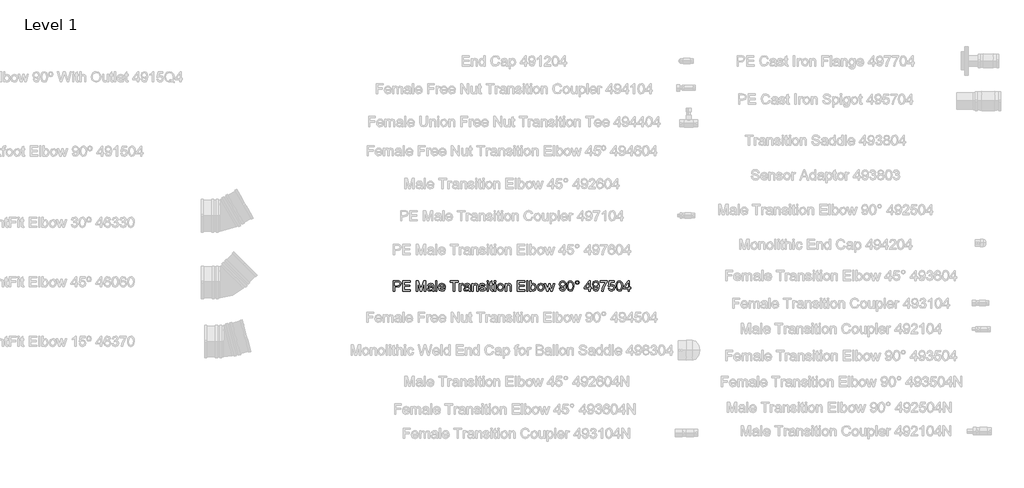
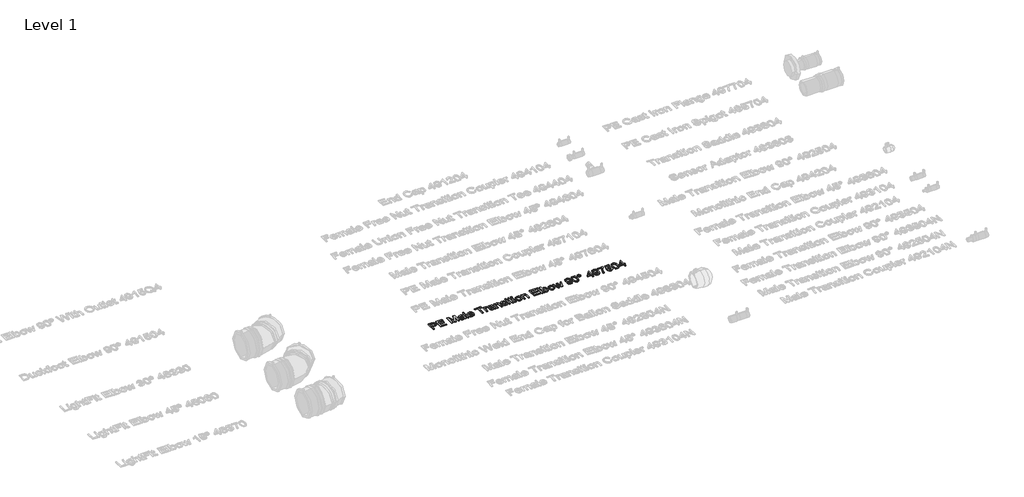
# One storey, part 22 of 41: 1 proxy.
"""IFC4 building model written with IfcOpenShell, lengths in millimetres."""

import ifcopenshell
import ifcopenshell.guid

model = None  # the IFC model being written
_history = None  # IfcOwnerHistory: only IFC2X3 demands one
_inside = {}  # id of a spatial element -> (the spatial element, [elements in it])
_under = {}  # id of a project, library or spatial element -> (it, [spatial elements below it])
_declared = {}  # id of a project -> (the project, [libraries it declares])
_typed = {}  # id of a type object -> (the type object, [elements of that type])
_made_of = {}  # id of a material, layer set ... -> (it, [elements and type objects made of it])


def new_model(schema):
    """Start an empty IFC model of exactly this schema.

    Asked for "IFC4X3", IfcOpenShell would pick the latest addendum, in which some entities
    have other attributes; the version numbers below select the first issue.
    IFC2X3 requires an IfcOwnerHistory on every rooted entity: one is made here for all.
    """
    global model, _history
    if schema == "IFC4X3":
        model = ifcopenshell.file(schema_version=(4, 3, 0, 0))
    else:
        model = ifcopenshell.file(schema=schema)
    _inside.clear()
    _under.clear()
    _declared.clear()
    _typed.clear()
    _made_of.clear()
    _history = None
    if model.schema == "IFC2X3":
        org = make("IfcOrganization", Name="unknown")
        user = make(
            "IfcPersonAndOrganization",
            ThePerson=make("IfcPerson", FamilyName="unknown"),
            TheOrganization=org,
        )
        app = make(
            "IfcApplication",
            ApplicationDeveloper=org,
            Version="unknown",
            ApplicationFullName="unknown",
            ApplicationIdentifier="unknown",
        )
        _history = make(
            "IfcOwnerHistory",
            OwningUser=user,
            OwningApplication=app,
            ChangeAction="ADDED",
            CreationDate=0,
        )
    return model


def make(cls, **values):
    """One entity of the class cls with the attributes given. An attribute that is None is left unset."""
    return model.create_entity(
        cls, **{name: value for name, value in values.items() if value is not None}
    )


def rooted(cls, **values):
    """An entity with a GlobalId (a new one), such as an element, a storey or a relation."""
    return make(cls, GlobalId=ifcopenshell.guid.new(), OwnerHistory=_history, **values)


def si_unit(unit_type, name, prefix=None):
    """IfcSIUnit, for example si_unit("LENGTHUNIT", "METRE", prefix="MILLI")."""
    return make("IfcSIUnit", UnitType=unit_type, Prefix=prefix, Name=name)


def assignment(units):
    """IfcUnitAssignment: the units of a project."""
    return None if units is None else make("IfcUnitAssignment", Units=units)


def point(xyz):
    """IfcCartesianPoint."""
    return None if xyz is None else make("IfcCartesianPoint", Coordinates=xyz)


def direction(xyz):
    """IfcDirection."""
    return None if xyz is None else make("IfcDirection", DirectionRatios=xyz)


def frame(location, z_axis=None, x_axis=None):
    """IfcAxis2Placement3D, a coordinate frame: its origin and axes. An axis left out is left unset."""
    return make(
        "IfcAxis2Placement3D",
        Location=point(location),
        Axis=direction(z_axis),
        RefDirection=direction(x_axis),
    )


def origin():
    """The frame at (0, 0, 0) with its axes left unset."""
    return frame((0.0, 0.0, 0.0))


def origin_with_axes():
    """The frame at (0, 0, 0) with the z axis (0, 0, 1) and the x axis (1, 0, 0) written out."""
    return frame((0.0, 0.0, 0.0), z_axis=(0.0, 0.0, 1.0), x_axis=(1.0, 0.0, 0.0))


def place(relative_to, where):
    """IfcLocalPlacement: puts the frame where relative to a parent placement (None: the world)."""
    return make(
        "IfcLocalPlacement", PlacementRelTo=relative_to, RelativePlacement=where
    )


def context(
    kind, dimensions, precision=None, world=None, true_north=None, identifier=None
):
    """IfcGeometricRepresentationContext, for example the 3D "Model" context."""
    return make(
        "IfcGeometricRepresentationContext",
        ContextIdentifier=identifier,
        ContextType=kind,
        CoordinateSpaceDimension=dimensions,
        Precision=precision,
        WorldCoordinateSystem=world,
        TrueNorth=true_north,
    )


def project(units=None, contexts=None):
    """IfcProject with its units and contexts."""
    return rooted(
        "IfcProject",
        Name="project",
        RepresentationContexts=contexts,
        UnitsInContext=assignment(units),
    )


def spatial(cls, under=None, at=None, **own):
    """A site, building, storey or space (cls), placed at a placement, below another one or the project."""
    s = rooted(cls, ObjectPlacement=at, **own)
    if under is not None:
        _under.setdefault(under.id(), (under, []))[1].append(s)
    return s


def polyline(points):
    """IfcPolyline through the points."""
    return make("IfcPolyline", Points=[point(p) for p in points])


def outline(outer, holes=None, kind="AREA"):
    """IfcArbitraryClosedProfileDef: a profile drawn as a closed curve; with holes, ...WithVoids."""
    if holes is None:
        return make("IfcArbitraryClosedProfileDef", ProfileType=kind, OuterCurve=outer)
    return make(
        "IfcArbitraryProfileDefWithVoids",
        ProfileType=kind,
        OuterCurve=outer,
        InnerCurves=holes,
    )


def extrude(swept, where, along, depth):
    """IfcExtrudedAreaSolid: the profile swept, set in the frame where, extruded along a direction by depth."""
    return make(
        "IfcExtrudedAreaSolid",
        SweptArea=swept,
        Position=where,
        ExtrudedDirection=direction(along),
        Depth=depth,
    )


def shape(context_of_items, identifier, shape_type, items):
    """IfcShapeRepresentation: the items that make up one representation, for example the "Body"."""
    return make(
        "IfcShapeRepresentation",
        ContextOfItems=context_of_items,
        RepresentationIdentifier=identifier,
        RepresentationType=shape_type,
        Items=items,
    )


def made_of(thing, what):
    """Note that an element or type object is made of a material, layer set ...; save() writes the relation."""
    if what is not None:
        _made_of.setdefault(what.id(), (what, []))[1].append(thing)
    return thing


def element(
    cls,
    number,
    at=None,
    inside=None,
    cuts=None,
    type_object=None,
    material=None,
    context=None,
    identifier="Body",
    shape_type=None,
    held_by="IfcProductDefinitionShape",
    body=None,
    shapes=None,
    **own,
):
    """One element of the class cls, such as IfcWall. Its Tag is "e" and its number.

    at: its placement. inside: the storey or other place that contains it. cuts: it is an
    opening in that element (IfcRelVoidsElement). A single representation is given by context,
    identifier, shape_type and body (its items); several are given by shapes. held_by: the class
    of the entity that holds the representations. save() writes the other relations.
    """
    e = rooted(cls, Tag="e%d" % number, ObjectPlacement=at, **own)
    if body is not None:
        shapes = [shape(context, identifier, shape_type, body)]
    if shapes is not None:
        e.Representation = make(held_by, Representations=shapes)
    if inside is not None:
        _inside.setdefault(inside.id(), (inside, []))[1].append(e)
    if cuts is not None:
        rooted(
            "IfcRelVoidsElement", RelatingBuildingElement=cuts, RelatedOpeningElement=e
        )
    if type_object is not None:
        _typed.setdefault(type_object.id(), (type_object, []))[1].append(e)
    return made_of(e, material)


def aggregate(whole, parts):
    """IfcRelAggregates: a whole, such as a stair, and the parts it consists of."""
    return rooted("IfcRelAggregates", RelatingObject=whole, RelatedObjects=parts)


def save(model, path):
    """Write the relations noted so far, then the file.

    IfcRelAggregates (storeys below a building ...), IfcRelContainedInSpatialStructure (elements
    in a storey), IfcRelDefinesByType, IfcRelAssociatesMaterial and IfcRelDeclares: one each for
    every whole, place, type object, material and project.
    """
    for whole, parts in _under.values():
        aggregate(whole, parts)
    for where, things in _inside.values():
        rooted(
            "IfcRelContainedInSpatialStructure",
            RelatedElements=things,
            RelatingStructure=where,
        )
    for kind, things in _typed.values():
        rooted("IfcRelDefinesByType", RelatedObjects=things, RelatingType=kind)
    for what, things in _made_of.values():
        rooted("IfcRelAssociatesMaterial", RelatedObjects=things, RelatingMaterial=what)
    for by, libraries in _declared.values():
        rooted("IfcRelDeclares", RelatingContext=by, RelatedDefinitions=libraries)
    model.write(path)


model = new_model("IFC4")

# Units and contexts
model_context = context("Model", 3, world=origin())
ifc_project = project(units=[si_unit("LENGTHUNIT", "METRE", prefix="MILLI")], contexts=[model_context])

# Site, building, storey
site = spatial("IfcSite", under=ifc_project)
building = spatial("IfcBuilding", under=site)
storey = spatial("IfcBuildingStorey", under=building, Name="Level 1", Elevation=0.0)

# Proxy
placement = place(None, origin())
element("IfcBuildingElementProxy", 1, Name="100 mm Arial", ObjectType="100 mm Arial", at=placement, inside=storey, context=model_context, shape_type="SweptSolid", body=[
    extrude(outline(polyline([(15631.4287831, 3784.446795), (15631.4287831, 3843.523718), (15653.3230139, 3843.523718), (15662.149937, 3842.961218), (15669.3254177, 3840.1991988), (15673.9768601, 3834.4876603), (15675.7364754, 3826.4323719), (15670.9840716, 3813.6679488), (15664.3188072, 3809.7520834), (15653.8278216, 3808.446795), (15638.8133985, 3808.446795), (15638.8133985, 3784.446795), (15631.4287831, 3784.446795)]), holes=[polyline([(15638.8133985, 3815.8314103), (15654.2605139, 3815.8314103), (15665.1355139, 3818.5429488), (15668.3518601, 3826.1727565), (15666.4552254, 3832.2881411), (15661.4720524, 3835.634295), (15654.087437, 3836.1391027), (15638.8133985, 3836.1391027), (15638.8133985, 3815.8314103)])]), origin_with_axes(), (0.0, 0.0, 1.0), 5.0),
    extrude(outline(polyline([(15685.8903216, 3784.446795), (15685.8903216, 3843.523718), (15728.3518601, 3843.523718), (15728.3518601, 3836.1391027), (15693.274937, 3836.1391027), (15693.274937, 3818.6006411), (15726.5057062, 3818.6006411), (15726.5057062, 3811.2160257), (15693.274937, 3811.2160257), (15693.274937, 3791.8314103), (15729.274937, 3791.8314103), (15729.274937, 3784.446795), (15685.8903216, 3784.446795)])), origin_with_axes(), (0.0, 0.0, 1.0), 5.0),
    extrude(outline(polyline([(15763.4287831, 3784.446795), (15763.4287831, 3843.523718), (15776.1355139, 3843.523718), (15788.2220524, 3801.884295), (15790.6595524, 3793.1871796), (15793.2989754, 3802.6054488), (15805.1835908, 3843.523718), (15817.8903216, 3843.523718), (15817.8903216, 3784.446795), (15810.5057062, 3784.446795), (15810.5057062, 3836.1391027), (15795.6643601, 3784.446795), (15785.6547447, 3784.446795), (15770.8133985, 3836.1391027), (15770.8133985, 3784.446795), (15763.4287831, 3784.446795)])), origin_with_axes(), (0.0, 0.0, 1.0), 5.0),
    extrude(outline(polyline([(15857.5826293, 3789.9852565), (15850.4215716, 3784.9804488), (15842.5105139, 3783.523718), (15831.7869562, 3787.0285257), (15828.0441677, 3795.9852565), (15829.4576293, 3801.8266027), (15833.1715716, 3806.0669873), (15838.3422447, 3808.4900642), (15844.7316677, 3809.6006411), (15857.5393601, 3812.1391027), (15857.5826293, 3813.7833334), (15855.5489754, 3819.2352565), (15847.3855139, 3821.3698719), (15839.9143601, 3819.9491988), (15836.3518601, 3814.9083334), (15828.9672447, 3815.8314103), (15832.1619562, 3823.0429488), (15838.5946485, 3827.2689103), (15848.337437, 3828.7544873), (15857.2869562, 3827.4419873), (15862.3422447, 3824.1463142), (15864.6066677, 3819.134295), (15864.9672447, 3812.6727565), (15864.9672447, 3803.4852565), (15865.3422447, 3790.6559296), (15866.8133985, 3784.446795), (15859.4287831, 3784.446795), (15857.5826293, 3789.9852565)]), holes=[polyline([(15857.5826293, 3804.7544873), (15845.6691677, 3802.4900642), (15839.3158024, 3801.2929488), (15836.4383985, 3799.3458334), (15835.4287831, 3796.5044873), (15837.6283024, 3792.509295), (15844.0826293, 3790.9083334), (15851.5537831, 3792.6751603), (15856.3710908, 3796.9516027), (15857.5393601, 3802.6631411), (15857.5826293, 3804.7544873)])]), origin_with_axes(), (0.0, 0.0, 1.0), 5.0),
    extrude(outline(polyline([(15875.1210908, 3784.446795), (15875.1210908, 3843.523718), (15882.5057062, 3843.523718), (15882.5057062, 3784.446795), (15875.1210908, 3784.446795)])), origin_with_axes(), (0.0, 0.0, 1.0), 5.0),
    extrude(outline(polyline([(15923.9576293, 3797.3698719), (15931.1980139, 3796.446795), (15924.4263793, 3786.9131411), (15911.8133985, 3783.523718), (15903.1487351, 3784.9858575), (15896.4816677, 3789.3722757), (15892.2304658, 3796.3981171), (15890.8133985, 3805.7785257), (15892.2448889, 3815.4744392), (15896.5393601, 3822.7256411), (15903.1162831, 3827.2472757), (15911.3951293, 3828.7544873), (15919.4161629, 3827.2508815), (15925.8254177, 3822.7400642), (15930.0279418, 3815.5032853), (15931.4287831, 3805.821795), (15931.3855139, 3803.8314103), (15898.1980139, 3803.8314103), (15902.4456101, 3794.2400642), (15911.9576293, 3790.9083334), (15919.1980139, 3792.4516027), (15923.9576293, 3797.3698719)]), holes=[polyline([(15898.1980139, 3811.2160257), (15924.0441677, 3811.2160257), (15921.087437, 3817.9083334), (15911.3662831, 3821.3698719), (15902.2725331, 3818.6078527), (15898.1980139, 3811.2160257)])]), origin_with_axes(), (0.0, 0.0, 1.0), 5.0),
    extrude(outline(polyline([(15977.5826293, 3784.446795), (15977.5826293, 3836.1391027), (15958.1980139, 3836.1391027), (15958.1980139, 3843.523718), (16004.3518601, 3843.523718), (16004.3518601, 3836.1391027), (15984.9672447, 3836.1391027), (15984.9672447, 3784.446795), (15977.5826293, 3784.446795)])), origin_with_axes(), (0.0, 0.0, 1.0), 5.0),
    extrude(outline(polyline([(16011.7364754, 3784.446795), (16011.7364754, 3827.8314103), (16018.1980139, 3827.8314103), (16018.1980139, 3821.4131411), (16022.7845524, 3827.3266027), (16027.399937, 3828.7544873), (16034.8133985, 3826.4756411), (16032.3470524, 3819.8554488), (16027.1547447, 3821.3698719), (16022.9792639, 3819.9131411), (16020.3182062, 3815.8746796), (16019.1210908, 3807.2496796), (16019.1210908, 3784.446795), (16011.7364754, 3784.446795)])), origin_with_axes(), (0.0, 0.0, 1.0), 5.0),
    extrude(outline(polyline([(16067.1210908, 3789.9852565), (16059.9600331, 3784.9804488), (16052.0489754, 3783.523718), (16041.3254177, 3787.0285257), (16037.5826293, 3795.9852565), (16038.9960908, 3801.8266027), (16042.7100331, 3806.0669873), (16047.8807062, 3808.4900642), (16054.2701293, 3809.6006411), (16067.0778216, 3812.1391027), (16067.1210908, 3813.7833334), (16065.087437, 3819.2352565), (16056.9239754, 3821.3698719), (16049.4528216, 3819.9491988), (16045.8903216, 3814.9083334), (16038.5057062, 3815.8314103), (16041.7004177, 3823.0429488), (16048.1331101, 3827.2689103), (16057.8758985, 3828.7544873), (16066.8254177, 3827.4419873), (16071.8807062, 3824.1463142), (16074.1451293, 3819.134295), (16074.5057062, 3812.6727565), (16074.5057062, 3803.4852565), (16074.8807062, 3790.6559296), (16076.3518601, 3784.446795), (16068.9672447, 3784.446795), (16067.1210908, 3789.9852565)]), holes=[polyline([(16067.1210908, 3804.7544873), (16055.2076293, 3802.4900642), (16048.8542639, 3801.2929488), (16045.9768601, 3799.3458334), (16044.9672447, 3796.5044873), (16047.1667639, 3792.509295), (16053.6210908, 3790.9083334), (16061.0922447, 3792.6751603), (16065.9095524, 3796.9516027), (16067.0778216, 3802.6631411), (16067.1210908, 3804.7544873)])]), origin_with_axes(), (0.0, 0.0, 1.0), 5.0),
    extrude(outline(polyline([(16084.6595524, 3784.446795), (16084.6595524, 3827.8314103), (16092.0441677, 3827.8314103), (16092.0441677, 3821.773718), (16097.6908024, 3827.009295), (16105.399937, 3828.7544873), (16112.3734947, 3827.3482373), (16117.1331101, 3823.6559296), (16119.3470524, 3818.2256411), (16119.7364754, 3811.086218), (16119.7364754, 3784.446795), (16112.3518601, 3784.446795), (16112.3518601, 3810.0910257), (16111.5008985, 3816.6246796), (16108.493687, 3820.0790065), (16103.4239754, 3821.3698719), (16095.4119562, 3818.4708334), (16092.0441677, 3807.4660257), (16092.0441677, 3784.446795), (16084.6595524, 3784.446795)])), origin_with_axes(), (0.0, 0.0, 1.0), 5.0),
    extrude(outline(polyline([(16127.1210908, 3797.3698719), (16134.5057062, 3798.2929488), (16137.9239754, 3792.8121796), (16145.7557062, 3790.9083334), (16153.2845524, 3792.6535257), (16155.7364754, 3796.7496796), (16153.2701293, 3800.0669873), (16145.6691677, 3802.1727565), (16134.5489754, 3805.7857373), (16129.6956101, 3810.0044873), (16128.0441677, 3815.961218), (16129.3710908, 3821.4636219), (16132.9912831, 3825.6679488), (16137.6859947, 3827.853045), (16144.0393601, 3828.7544873), (16153.024937, 3827.304968), (16158.7364754, 3823.3818911), (16161.274937, 3816.7544873), (16153.8903216, 3815.8314103), (16151.1138793, 3819.9059296), (16144.6162831, 3821.3698719), (16137.5489754, 3819.9708334), (16135.4287831, 3816.711218), (16136.3085908, 3814.5621796), (16139.0633985, 3812.9323719), (16145.4239754, 3811.3602565), (16156.2629177, 3807.884295), (16161.2965716, 3803.946795), (16163.1210908, 3797.5285257), (16160.9792639, 3790.461218), (16154.7989754, 3785.3338142), (16145.6547447, 3783.523718), (16132.774937, 3787.0141027), (16127.1210908, 3797.3698719)])), origin_with_axes(), (0.0, 0.0, 1.0), 5.0),
    extrude(outline(polyline([(16171.4287831, 3784.446795), (16171.4287831, 3827.8314103), (16178.8133985, 3827.8314103), (16178.8133985, 3784.446795), (16171.4287831, 3784.446795)])), origin_with_axes(), (0.0, 0.0, 1.0), 5.0),
    extrude(outline(polyline([(16171.4287831, 3836.1391027), (16171.4287831, 3843.523718), (16178.8133985, 3843.523718), (16178.8133985, 3836.1391027), (16171.4287831, 3836.1391027)])), origin_with_axes(), (0.0, 0.0, 1.0), 5.0),
    extrude(outline(polyline([(16205.5826293, 3790.6054488), (16206.5057062, 3784.2304488), (16200.9816677, 3783.523718), (16194.7941677, 3784.7496796), (16191.7076293, 3787.9660257), (16190.8133985, 3796.3458334), (16190.8133985, 3820.446795), (16185.274937, 3820.446795), (16185.274937, 3827.8314103), (16190.8133985, 3827.8314103), (16190.8133985, 3838.3746796), (16198.1980139, 3842.7160257), (16198.1980139, 3827.8314103), (16205.5826293, 3827.8314103), (16205.5826293, 3820.446795), (16198.1980139, 3820.446795), (16198.1980139, 3796.5621796), (16198.587437, 3792.7544873), (16199.8494562, 3791.4059296), (16202.3662831, 3790.9083334), (16205.5826293, 3790.6054488)])), origin_with_axes(), (0.0, 0.0, 1.0), 5.0),
    extrude(outline(polyline([(16212.9672447, 3836.1391027), (16212.9672447, 3843.523718), (16220.3518601, 3843.523718), (16220.3518601, 3836.1391027), (16212.9672447, 3836.1391027)])), origin_with_axes(), (0.0, 0.0, 1.0), 5.0),
    extrude(outline(polyline([(16212.9672447, 3784.446795), (16212.9672447, 3827.8314103), (16220.3518601, 3827.8314103), (16220.3518601, 3784.446795), (16212.9672447, 3784.446795)])), origin_with_axes(), (0.0, 0.0, 1.0), 5.0),
    extrude(outline(polyline([(16229.5826293, 3806.1391027), (16231.1799851, 3816.5994392), (16235.9720524, 3823.9516027), (16248.9816677, 3828.7544873), (16256.7394802, 3827.2923478), (16262.9359947, 3822.9059296), (16266.9978937, 3815.9413863), (16268.3518601, 3806.7448719), (16265.9576293, 3793.6054488), (16258.9840716, 3786.1703527), (16248.9816677, 3783.523718), (16241.1301052, 3784.9804488), (16234.9408024, 3789.3506411), (16230.9221726, 3796.461218), (16229.5826293, 3806.1391027)]), holes=[polyline([(16236.9672447, 3806.1535257), (16240.3855139, 3794.7088142), (16248.9816677, 3790.9083334), (16257.5489754, 3794.7304488), (16260.9672447, 3806.384295), (16257.5273408, 3817.5693911), (16248.9816677, 3821.3698719), (16240.3855139, 3817.5838142), (16236.9672447, 3806.1535257)])]), origin_with_axes(), (0.0, 0.0, 1.0), 5.0),
    extrude(outline(polyline([(16276.6595524, 3784.446795), (16276.6595524, 3827.8314103), (16284.0441677, 3827.8314103), (16284.0441677, 3821.773718), (16289.6908024, 3827.009295), (16297.399937, 3828.7544873), (16304.3734947, 3827.3482373), (16309.1331101, 3823.6559296), (16311.3470524, 3818.2256411), (16311.7364754, 3811.086218), (16311.7364754, 3784.446795), (16304.3518601, 3784.446795), (16304.3518601, 3810.0910257), (16303.5008985, 3816.6246796), (16300.493687, 3820.0790065), (16295.4239754, 3821.3698719), (16287.4119562, 3818.4708334), (16284.0441677, 3807.4660257), (16284.0441677, 3784.446795), (16276.6595524, 3784.446795)])), origin_with_axes(), (0.0, 0.0, 1.0), 5.0),
    extrude(outline(polyline([(16345.8903216, 3784.446795), (16345.8903216, 3843.523718), (16388.3518601, 3843.523718), (16388.3518601, 3836.1391027), (16353.274937, 3836.1391027), (16353.274937, 3818.6006411), (16386.5057062, 3818.6006411), (16386.5057062, 3811.2160257), (16353.274937, 3811.2160257), (16353.274937, 3791.8314103), (16389.274937, 3791.8314103), (16389.274937, 3784.446795), (16345.8903216, 3784.446795)])), origin_with_axes(), (0.0, 0.0, 1.0), 5.0),
    extrude(outline(polyline([(16399.4287831, 3784.446795), (16399.4287831, 3843.523718), (16406.8133985, 3843.523718), (16406.8133985, 3784.446795), (16399.4287831, 3784.446795)])), origin_with_axes(), (0.0, 0.0, 1.0), 5.0),
    extrude(outline(polyline([(16425.274937, 3784.446795), (16417.8903216, 3784.446795), (16417.8903216, 3843.523718), (16425.274937, 3843.523718), (16425.274937, 3821.6150642), (16430.4456101, 3826.9696315), (16436.8710908, 3828.7544873), (16444.2701293, 3827.1463142), (16450.0105139, 3822.6246796), (16453.5369562, 3815.5934296), (16454.8133985, 3806.7881411), (16453.4918841, 3796.929968), (16449.5273408, 3789.5958334), (16443.7094322, 3785.0417469), (16436.8278216, 3783.523718), (16430.2617158, 3785.4816507), (16425.274937, 3791.3554488), (16425.274937, 3784.446795)]), holes=[polyline([(16425.274937, 3806.4419873), (16427.2941677, 3796.1150642), (16436.1932062, 3790.9083334), (16444.0970524, 3794.7448719), (16447.4287831, 3806.1823719), (16444.2340716, 3817.6631411), (16436.5105139, 3821.3698719), (16428.6066677, 3817.5333334), (16425.274937, 3806.4419873)])]), origin_with_axes(), (0.0, 0.0, 1.0), 5.0),
    extrude(outline(polyline([(16461.274937, 3806.1391027), (16462.8722927, 3816.5994392), (16467.6643601, 3823.9516027), (16480.6739754, 3828.7544873), (16488.4317879, 3827.2923478), (16494.6283024, 3822.9059296), (16498.6902014, 3815.9413863), (16500.0441677, 3806.7448719), (16497.649937, 3793.6054488), (16490.6763793, 3786.1703527), (16480.6739754, 3783.523718), (16472.8224129, 3784.9804488), (16466.6331101, 3789.3506411), (16462.6144802, 3796.461218), (16461.274937, 3806.1391027)]), holes=[polyline([(16468.6595524, 3806.1535257), (16472.0778216, 3794.7088142), (16480.6739754, 3790.9083334), (16489.2412831, 3794.7304488), (16492.6595524, 3806.384295), (16489.2196485, 3817.5693911), (16480.6739754, 3821.3698719), (16472.0778216, 3817.5838142), (16468.6595524, 3806.1535257)])]), origin_with_axes(), (0.0, 0.0, 1.0), 5.0),
    extrude(outline(polyline([(16515.5489754, 3784.446795), (16502.3518601, 3827.8314103), (16510.024937, 3827.8314103), (16517.5105139, 3802.5189103), (16519.7460908, 3793.4756411), (16521.5778216, 3802.1871796), (16527.5345524, 3827.8314103), (16536.3326293, 3827.8314103), (16542.2605139, 3802.259295), (16543.8903216, 3794.3698719), (16546.2268601, 3802.6919873), (16553.7268601, 3827.8314103), (16561.4287831, 3827.8314103), (16548.1307062, 3784.446795), (16539.2028216, 3784.446795), (16533.5345524, 3809.8891027), (16531.8903216, 3817.821795), (16524.5778216, 3784.446795), (16515.5489754, 3784.446795)])), origin_with_axes(), (0.0, 0.0, 1.0), 5.0),
    extrude(outline(polyline([(16588.6595524, 3799.2160257), (16596.0441677, 3800.1391027), (16599.3614754, 3793.0934296), (16605.649937, 3790.9083334), (16611.6283024, 3792.3145834), (16615.681187, 3796.071795), (16618.0970524, 3802.4900642), (16619.1643601, 3811.0573719), (16613.2148408, 3806.9035257), (16605.1162831, 3804.7544873), (16592.7773408, 3810.0044873), (16587.7364754, 3823.836218), (16593.0225331, 3838.1150642), (16606.2701293, 3843.523718), (16616.7917639, 3840.4371796), (16624.0321485, 3831.6391027), (16626.5057062, 3815.1102565), (16624.0393601, 3797.1751603), (16616.7052254, 3787.0141027), (16605.3037831, 3783.523718), (16593.9528216, 3787.6415065), (16588.6595524, 3799.2160257)]), holes=[polyline([(16619.1210908, 3824.009295), (16615.9335908, 3832.8650642), (16607.4672447, 3836.1391027), (16598.5826293, 3832.6126603), (16595.1210908, 3823.4756411), (16598.3951293, 3815.290545), (16607.2653216, 3812.1391027), (16615.7821485, 3815.290545), (16619.1210908, 3824.009295)])]), origin_with_axes(), (0.0, 0.0, 1.0), 5.0),
    extrude(outline(polyline([(16632.9672447, 3813.509295), (16635.1379177, 3830.5068911), (16641.5850331, 3840.3073719), (16652.3518601, 3843.523718), (16660.9768601, 3841.6198719), (16666.9335908, 3836.1318911), (16670.3951293, 3827.3915065), (16671.7364754, 3813.509295), (16669.587437, 3796.5838142), (16663.1619562, 3786.7616988), (16652.3518601, 3783.523718), (16644.6787831, 3784.929968), (16638.8518601, 3789.148718), (16634.4383985, 3799.1403046), (16632.9672447, 3813.509295)]), holes=[polyline([(16640.3518601, 3813.523718), (16643.8133985, 3795.1847757), (16652.3518601, 3790.9083334), (16660.8903216, 3795.1991988), (16664.3518601, 3813.523718), (16661.0057062, 3831.6535257), (16652.2653216, 3836.1391027), (16643.9287831, 3832.1871796), (16640.3518601, 3813.523718)])]), origin_with_axes(), (0.0, 0.0, 1.0), 5.0),
    extrude(outline(polyline([(16680.0441677, 3833.384295), (16683.2965716, 3841.2160257), (16691.1066677, 3844.446795), (16698.9672447, 3841.2160257), (16702.1980139, 3833.384295), (16698.9456101, 3825.5453527), (16691.1066677, 3822.2929488), (16683.2965716, 3825.523718), (16680.0441677, 3833.384295)]), holes=[polyline([(16684.6595524, 3833.3698719), (16686.556187, 3828.7977565), (16691.1355139, 3826.9083334), (16695.6859947, 3828.7977565), (16697.5826293, 3833.3698719), (16695.6859947, 3837.9419873), (16691.1355139, 3839.8314103), (16686.556187, 3837.9419873), (16684.6595524, 3833.3698719)])]), origin_with_axes(), (0.0, 0.0, 1.0), 5.0),
    extrude(outline(polyline([(16758.5057062, 3784.446795), (16758.5057062, 3798.2929488), (16731.7364754, 3798.2929488), (16731.7364754, 3805.6775642), (16760.3518601, 3842.6006411), (16765.8903216, 3842.6006411), (16765.8903216, 3805.6775642), (16773.274937, 3805.6775642), (16773.274937, 3798.2929488), (16765.8903216, 3798.2929488), (16765.8903216, 3784.446795), (16758.5057062, 3784.446795)]), holes=[polyline([(16758.5057062, 3805.6775642), (16758.5057062, 3828.4948719), (16740.8230139, 3805.6775642), (16758.5057062, 3805.6775642)])]), origin_with_axes(), (0.0, 0.0, 1.0), 5.0),
    extrude(outline(polyline([(16780.6595524, 3799.2160257), (16788.0441677, 3800.1391027), (16791.3614754, 3793.0934296), (16797.649937, 3790.9083334), (16803.6283024, 3792.3145834), (16807.681187, 3796.071795), (16810.0970524, 3802.4900642), (16811.1643601, 3811.0573719), (16805.2148408, 3806.9035257), (16797.1162831, 3804.7544873), (16784.7773408, 3810.0044873), (16779.7364754, 3823.836218), (16785.0225331, 3838.1150642), (16798.2701293, 3843.523718), (16808.7917639, 3840.4371796), (16816.0321485, 3831.6391027), (16818.5057062, 3815.1102565), (16816.0393601, 3797.1751603), (16808.7052254, 3787.0141027), (16797.3037831, 3783.523718), (16785.9528216, 3787.6415065), (16780.6595524, 3799.2160257)]), holes=[polyline([(16811.1210908, 3824.009295), (16807.9335908, 3832.8650642), (16799.4672447, 3836.1391027), (16790.5826293, 3832.6126603), (16787.1210908, 3823.4756411), (16790.3951293, 3815.290545), (16799.2653216, 3812.1391027), (16807.7821485, 3815.290545), (16811.1210908, 3824.009295)])]), origin_with_axes(), (0.0, 0.0, 1.0), 5.0),
    extrude(outline(polyline([(16824.9672447, 3835.2160257), (16824.9672447, 3842.6006411), (16863.7364754, 3842.6006411), (16863.7364754, 3836.6294873), (16852.7388793, 3820.742468), (16844.3230139, 3800.4996796), (16841.5826293, 3784.446795), (16834.1980139, 3784.446795), (16837.1331101, 3801.1054488), (16845.1883985, 3819.9347757), (16856.3518601, 3835.2160257), (16824.9672447, 3835.2160257)])), origin_with_axes(), (0.0, 0.0, 1.0), 5.0),
    extrude(outline(polyline([(16870.1980139, 3800.1391027), (16877.5826293, 3801.0621796), (16881.3037831, 3793.4540065), (16889.0201293, 3790.9083334), (16898.2797447, 3794.4491988), (16901.5826293, 3803.8458334), (16898.4888793, 3812.6150642), (16889.1355139, 3815.8314103), (16882.6523408, 3814.5477565), (16878.5057062, 3811.2160257), (16871.1210908, 3812.1391027), (16877.5826293, 3842.6006411), (16906.1980139, 3842.6006411), (16906.1980139, 3835.2160257), (16883.5537831, 3835.2160257), (16880.3951293, 3818.946795), (16891.1980139, 3823.2160257), (16903.8254177, 3817.9227565), (16908.9672447, 3804.3073719), (16904.337437, 3790.6054488), (16897.6883985, 3785.2941507), (16888.9912831, 3783.523718), (16875.9600331, 3788.0741988), (16870.1980139, 3800.1391027)])), origin_with_axes(), (0.0, 0.0, 1.0), 5.0),
    extrude(outline(polyline([(16915.4287831, 3813.509295), (16917.5994562, 3830.5068911), (16924.0465716, 3840.3073719), (16934.8133985, 3843.523718), (16943.4383985, 3841.6198719), (16949.3951293, 3836.1318911), (16952.8566677, 3827.3915065), (16954.1980139, 3813.509295), (16952.0489754, 3796.5838142), (16945.6234947, 3786.7616988), (16934.8133985, 3783.523718), (16927.1403216, 3784.929968), (16921.3133985, 3789.148718), (16916.899937, 3799.1403046), (16915.4287831, 3813.509295)]), holes=[polyline([(16922.8133985, 3813.523718), (16926.274937, 3795.1847757), (16934.8133985, 3790.9083334), (16943.3518601, 3795.1991988), (16946.8133985, 3813.523718), (16943.4672447, 3831.6535257), (16934.7268601, 3836.1391027), (16926.3903216, 3832.1871796), (16922.8133985, 3813.523718)])]), origin_with_axes(), (0.0, 0.0, 1.0), 5.0),
    extrude(outline(polyline([(16984.6595524, 3784.446795), (16984.6595524, 3798.2929488), (16957.8903216, 3798.2929488), (16957.8903216, 3805.6775642), (16986.5057062, 3842.6006411), (16992.0441677, 3842.6006411), (16992.0441677, 3805.6775642), (16999.4287831, 3805.6775642), (16999.4287831, 3798.2929488), (16992.0441677, 3798.2929488), (16992.0441677, 3784.446795), (16984.6595524, 3784.446795)]), holes=[polyline([(16984.6595524, 3805.6775642), (16984.6595524, 3828.4948719), (16966.9768601, 3805.6775642), (16984.6595524, 3805.6775642)])]), origin_with_axes(), (0.0, 0.0, 1.0), 5.0),
])

save(model, "model.ifc")
